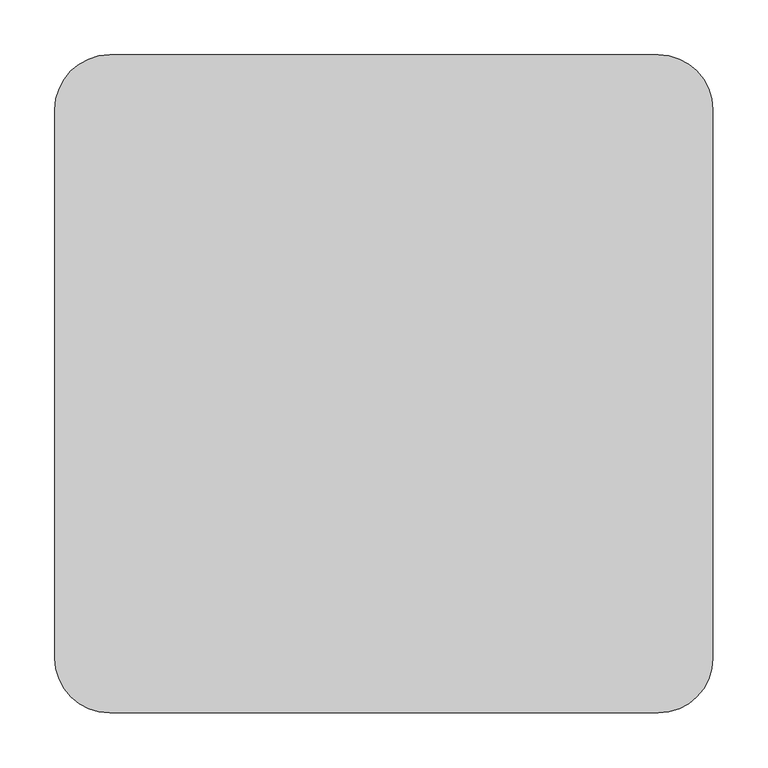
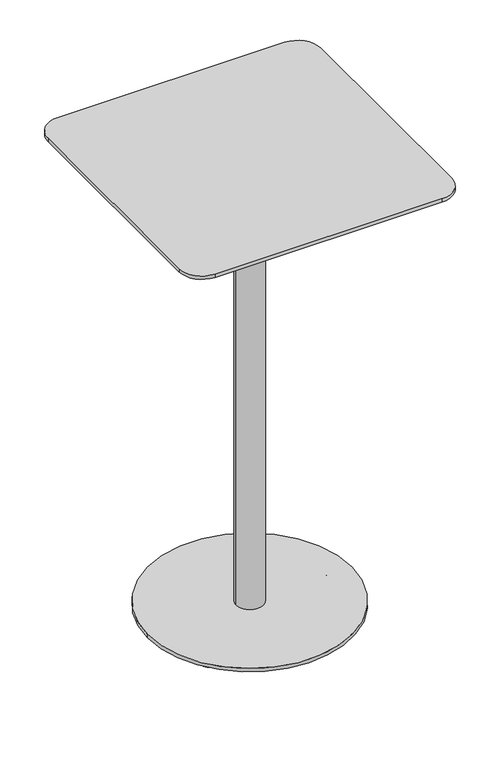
"""IFC4 building model written with IfcOpenShell, lengths in millimetres: furniture geometry, Vestre - Munch Table - 5138 : Vestre - Munch Table - 5138."""

from ifc_helpers import new_model, si_unit, point, frame, frame_2d, origin, origin_with_axes, origin_2d, place, context, project, spatial, polyline, circle_curve, trimmed, segment, composite_curve, outline, extrude, source, transform, mapped, element, save


def furniture_c630520a(model_context):
    return source(origin(), model_context, "Body", "SweptSolid", [
        extrude(outline(composite_curve([segment(polyline([(-250.0, 299.8302352), (250.0, 299.8302352)]), True, "CONTINUOUS"), segment(trimmed(circle_curve(frame_2d((250.0, 249.8302352)), 50.0), [point((250.0, 299.8302352))], [point((300.0, 249.8302352))], False, "CARTESIAN"), True, "CONTINUOUS"), segment(polyline([(300.0, 249.8302352), (300.0, -250.1697648)]), True, "CONTINUOUS"), segment(trimmed(circle_curve(frame_2d((250.0, -250.1697648)), 50.0), [point((300.0, -250.1697648))], [point((250.0, -300.1697648))], False, "CARTESIAN"), True, "CONTINUOUS"), segment(polyline([(250.0, -300.1697648), (-250.0, -300.1697648)]), True, "CONTINUOUS"), segment(trimmed(circle_curve(frame_2d((-250.0, -250.1697648)), 50.0), [point((-250.0, -300.1697648))], [point((-300.0, -250.1697648))], False, "CARTESIAN"), True, "CONTINUOUS"), segment(polyline([(-300.0, -250.1697648), (-300.0, 249.8302352)]), True, "CONTINUOUS"), segment(trimmed(circle_curve(frame_2d((-250.0, 249.8302352)), 50.0), [point((-300.0, 249.8302352))], [point((-250.0, 299.8302352))], False, "CARTESIAN"), True, "CONTINUOUS")], self_intersect=False)), frame((0.0, 0.0, 1041.85), z_axis=(0.0, 0.0, 1.0), x_axis=(1.0, 0.0, 0.0)), (0.0, 0.0, 1.0), 7.85),
        extrude(outline(composite_curve([segment(trimmed(circle_curve(frame_2d((-153.9130034, -111.52459)), 19.0), [point((-172.9130034, -111.52459))], [point((-134.9130034, -111.52459))], False, "CARTESIAN"), True, "CONTINUOUS"), segment(trimmed(circle_curve(frame_2d((-153.9130034, -111.52459)), 19.0), [point((-134.9130034, -111.52459))], [point((-172.9130034, -111.52459))], False, "CARTESIAN"), True, "CONTINUOUS")], self_intersect=False)), origin_with_axes(), (0.0, 0.0, 1.0), 12.0),
        extrude(outline(composite_curve([segment(trimmed(circle_curve(frame_2d((58.5136425, -181.3237178)), 19.0), [point((77.5136425, -181.3237178))], [point((39.5136425, -181.3237178))], False, "CARTESIAN"), True, "CONTINUOUS"), segment(trimmed(circle_curve(frame_2d((58.5136425, -181.3237178)), 19.0), [point((39.5136425, -181.3237178))], [point((77.5136425, -181.3237178))], False, "CARTESIAN"), True, "CONTINUOUS")], self_intersect=False)), origin_with_axes(), (0.0, 0.0, 1.0), 12.0),
        extrude(outline(composite_curve([segment(trimmed(circle_curve(frame_2d((190.1702104, -0.1697648)), 19.0), [point((209.1702104, -0.1697648))], [point((171.1702104, -0.1697648))], False, "CARTESIAN"), True, "CONTINUOUS"), segment(trimmed(circle_curve(frame_2d((190.1702104, -0.1697648)), 19.0), [point((171.1702104, -0.1697648))], [point((209.1702104, -0.1697648))], False, "CARTESIAN"), True, "CONTINUOUS")], self_intersect=False)), origin_with_axes(), (0.0, 0.0, 1.0), 12.0),
        extrude(outline(composite_curve([segment(trimmed(circle_curve(frame_2d((58.6453704, 180.7101814)), 19.0), [point((77.6453704, 180.7101814))], [point((39.6453704, 180.7101814))], False, "CARTESIAN"), True, "CONTINUOUS"), segment(trimmed(circle_curve(frame_2d((58.6453704, 180.7101814)), 19.0), [point((39.6453704, 180.7101814))], [point((77.6453704, 180.7101814))], False, "CARTESIAN"), True, "CONTINUOUS")], self_intersect=False)), origin_with_axes(), (0.0, 0.0, 1.0), 12.0),
        extrude(outline(composite_curve([segment(trimmed(circle_curve(frame_2d((-153.730807, 111.6727884)), 19.0), [point((-134.730807, 111.6727884))], [point((-172.730807, 111.6727884))], False, "CARTESIAN"), True, "CONTINUOUS"), segment(trimmed(circle_curve(frame_2d((-153.730807, 111.6727884)), 19.0), [point((-172.730807, 111.6727884))], [point((-134.730807, 111.6727884))], False, "CARTESIAN"), True, "CONTINUOUS")], self_intersect=False)), origin_with_axes(), (0.0, 0.0, 1.0), 12.0),
        extrude(outline(composite_curve([segment(trimmed(circle_curve(origin_2d(), 225.0), [point((-225.0, 0.0))], [point((225.0, 0.0))], False, "CARTESIAN"), True, "CONTINUOUS"), segment(trimmed(circle_curve(origin_2d(), 225.0), [point((225.0, 0.0))], [point((-225.0, 0.0))], False, "CARTESIAN"), True, "CONTINUOUS")], self_intersect=False)), frame((0.0, 0.0, 12.0), z_axis=(0.0, 0.0, 1.0), x_axis=(1.0, 0.0, 0.0)), (0.0, 0.0, 1.0), 7.85),
        extrude(outline(composite_curve([segment(trimmed(circle_curve(origin_2d(), 30.15), [point((-30.15, 0.0))], [point((30.15, 0.0))], False, "CARTESIAN"), True, "CONTINUOUS"), segment(trimmed(circle_curve(origin_2d(), 30.15), [point((30.15, 0.0))], [point((-30.15, 0.0))], False, "CARTESIAN"), True, "CONTINUOUS")], self_intersect=False)), frame((0.0, 0.0, 19.85), z_axis=(0.0, 0.0, 1.0), x_axis=(1.0, 0.0, 0.0)), (0.0, 0.0, 1.0), 1022.0),
    ])


if __name__ == "__main__":
    model = new_model("IFC4")
    model_context = context("Model", 3, world=origin())
    ifc_project = project(units=[si_unit("LENGTHUNIT", "METRE", prefix="MILLI")], contexts=[model_context])
    site = spatial("IfcSite", under=ifc_project)
    building = spatial("IfcBuilding", under=site)
    placement = place(None, origin())
    furniture_shape = furniture_c630520a(model_context)
    element("IfcFurniture", 1, ObjectType="Vestre - Munch Table - 5138 : Vestre - Munch Table - 5138", at=placement, inside=building, context=model_context, shape_type="MappedRepresentation", body=[
        mapped(furniture_shape, transform((0.0, 0.0, 0.0), x_axis=(1.0, 0.0, 0.0), y_axis=(0.0, 1.0, 0.0), z_axis=(0.0, 0.0, 1.0))),
    ])
    save(model, "model.ifc")
